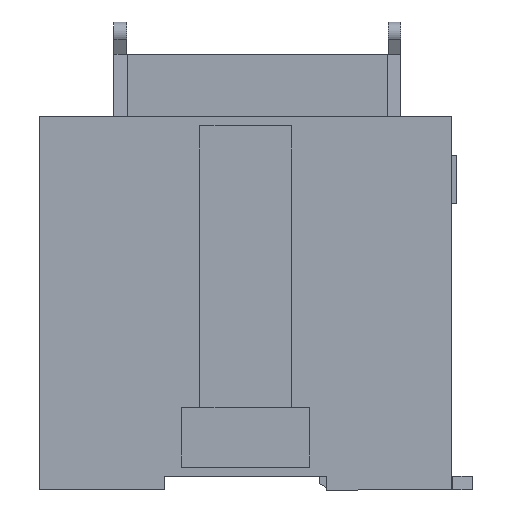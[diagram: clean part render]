
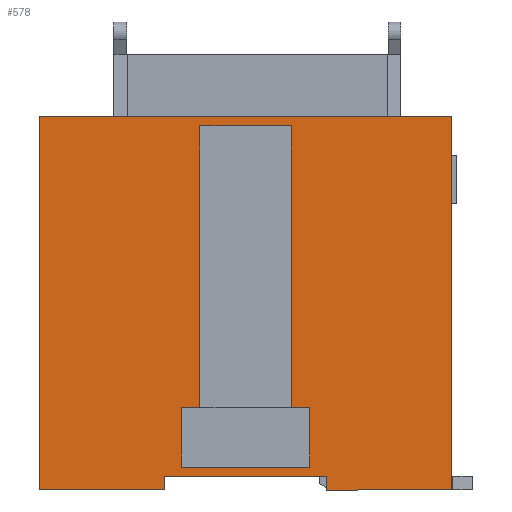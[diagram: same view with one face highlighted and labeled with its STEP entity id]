
A CAD part, left-side view. The second image highlights one B-rep face of the part: STEP entity #578.
In plain terms, the highlighted planar face has unit normal (-1, 0, 0).
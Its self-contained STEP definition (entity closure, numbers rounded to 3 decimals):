
#490=FACE_BOUND('',#1203,.T.);
#491=FACE_BOUND('',#1204,.T.);
#578=ADVANCED_FACE('',(#490,#491),#797,.F.);
#797=PLANE('',#4771);
#1203=EDGE_LOOP('',(#1861,#1862,#1863,#1864,#1865,#1866,#1867,#1868));
#1204=EDGE_LOOP('',(#1869,#1870,#1871,#1872,#1873,#1874,#1875,#1876));
#1861=ORIENTED_EDGE('',*,*,#3294,.T.);
#1862=ORIENTED_EDGE('',*,*,#3295,.F.);
#1863=ORIENTED_EDGE('',*,*,#3276,.F.);
#1864=ORIENTED_EDGE('',*,*,#3245,.F.);
#1865=ORIENTED_EDGE('',*,*,#3235,.F.);
#1866=ORIENTED_EDGE('',*,*,#3212,.F.);
#1867=ORIENTED_EDGE('',*,*,#3253,.F.);
#1868=ORIENTED_EDGE('',*,*,#3243,.F.);
#1869=ORIENTED_EDGE('',*,*,#3296,.T.);
#1870=ORIENTED_EDGE('',*,*,#3297,.F.);
#1871=ORIENTED_EDGE('',*,*,#3220,.F.);
#1872=ORIENTED_EDGE('',*,*,#3298,.F.);
#1873=ORIENTED_EDGE('',*,*,#3256,.F.);
#1874=ORIENTED_EDGE('',*,*,#3292,.F.);
#1875=ORIENTED_EDGE('',*,*,#3224,.F.);
#1876=ORIENTED_EDGE('',*,*,#3299,.F.);
#2762=VERTEX_POINT('',#6483);
#2763=VERTEX_POINT('',#6485);
#2769=VERTEX_POINT('',#6500);
#2770=VERTEX_POINT('',#6502);
#2773=VERTEX_POINT('',#6508);
#2774=VERTEX_POINT('',#6510);
#2784=VERTEX_POINT('',#6534);
#2791=VERTEX_POINT('',#6550);
#2792=VERTEX_POINT('',#6552);
#2793=VERTEX_POINT('',#6556);
#2801=VERTEX_POINT('',#6576);
#2802=VERTEX_POINT('',#6578);
#2819=VERTEX_POINT('',#6618);
#2830=VERTEX_POINT('',#6684);
#2831=VERTEX_POINT('',#6687);
#2832=VERTEX_POINT('',#6688);
#3212=EDGE_CURVE('',#2762,#2763,#3798,.T.);
#3220=EDGE_CURVE('',#2769,#2770,#3806,.T.);
#3224=EDGE_CURVE('',#2773,#2774,#3810,.T.);
#3235=EDGE_CURVE('',#2763,#2784,#3817,.T.);
#3243=EDGE_CURVE('',#2791,#2792,#3825,.T.);
#3245=EDGE_CURVE('',#2784,#2793,#3827,.T.);
#3253=EDGE_CURVE('',#2792,#2762,#3833,.T.);
#3256=EDGE_CURVE('',#2801,#2802,#3836,.T.);
#3276=EDGE_CURVE('',#2793,#2819,#3855,.T.);
#3292=EDGE_CURVE('',#2774,#2801,#3867,.T.);
#3294=EDGE_CURVE('',#2791,#2830,#3869,.T.);
#3295=EDGE_CURVE('',#2819,#2830,#3870,.T.);
#3296=EDGE_CURVE('',#2831,#2832,#3871,.T.);
#3297=EDGE_CURVE('',#2770,#2832,#3872,.T.);
#3298=EDGE_CURVE('',#2802,#2769,#3873,.T.);
#3299=EDGE_CURVE('',#2831,#2773,#3874,.T.);
#3798=LINE('',#6484,#4326);
#3806=LINE('',#6501,#4334);
#3810=LINE('',#6509,#4338);
#3817=LINE('',#6533,#4345);
#3825=LINE('',#6551,#4353);
#3827=LINE('',#6555,#4355);
#3833=LINE('',#6570,#4361);
#3836=LINE('',#6577,#4364);
#3855=LINE('',#6617,#4383);
#3867=LINE('',#6680,#4395);
#3869=LINE('',#6683,#4397);
#3870=LINE('',#6685,#4398);
#3871=LINE('',#6686,#4399);
#3872=LINE('',#6689,#4400);
#3873=LINE('',#6690,#4401);
#3874=LINE('',#6691,#4402);
#4326=VECTOR('',#5293,1.);
#4334=VECTOR('',#5305,1.);
#4338=VECTOR('',#5309,1.);
#4345=VECTOR('',#5330,1.);
#4353=VECTOR('',#5342,1.);
#4355=VECTOR('',#5346,1.);
#4361=VECTOR('',#5358,1.);
#4364=VECTOR('',#5363,1.);
#4383=VECTOR('',#5390,1.);
#4395=VECTOR('',#5410,1.);
#4397=VECTOR('',#5414,1.);
#4398=VECTOR('',#5415,1.);
#4399=VECTOR('',#5416,1.);
#4400=VECTOR('',#5417,1.);
#4401=VECTOR('',#5418,1.);
#4402=VECTOR('',#5419,1.);
#4771=AXIS2_PLACEMENT_3D('',#6692,#5420,#5421);
#5293=DIRECTION('',(0.,1.,0.));
#5305=DIRECTION('',(0.,1.,0.));
#5309=DIRECTION('',(0.,1.,0.));
#5330=DIRECTION('',(0.,0.,-1.));
#5342=DIRECTION('',(0.,1.,0.));
#5346=DIRECTION('',(0.,1.,0.));
#5358=DIRECTION('',(0.,0.,1.));
#5363=DIRECTION('',(0.,-1.,0.));
#5390=DIRECTION('',(0.,0.,1.));
#5410=DIRECTION('',(0.,0.,-1.));
#5414=DIRECTION('',(0.,0.,1.));
#5415=DIRECTION('',(0.,-1.,0.));
#5416=DIRECTION('',(0.,-1.,0.));
#5417=DIRECTION('',(0.,0.,1.));
#5418=DIRECTION('',(0.,0.,1.));
#5419=DIRECTION('',(0.,0.,-1.));
#5420=DIRECTION('',(1.,0.,0.));
#5421=DIRECTION('',(0.,1.,0.));
#6483=CARTESIAN_POINT('',(-60.,-17.7,3.));
#6484=CARTESIAN_POINT('',(-60.,-17.7,3.));
#6485=CARTESIAN_POINT('',(-60.,17.7,3.));
#6500=CARTESIAN_POINT('',(-60.,-14.,18.));
#6501=CARTESIAN_POINT('',(-60.,-13.,18.));
#6502=CARTESIAN_POINT('',(-60.,-10.,18.));
#6508=CARTESIAN_POINT('',(-60.,10.,18.));
#6509=CARTESIAN_POINT('',(-60.,10.,18.));
#6510=CARTESIAN_POINT('',(-60.,14.,18.));
#6533=CARTESIAN_POINT('',(-60.,17.7,1.5));
#6534=CARTESIAN_POINT('',(-60.,17.7,0.));
#6550=CARTESIAN_POINT('',(-60.,-45.,0.));
#6551=CARTESIAN_POINT('',(-60.,-44.5,0.));
#6552=CARTESIAN_POINT('',(-60.,-17.7,0.));
#6555=CARTESIAN_POINT('',(-60.,18.2,0.));
#6556=CARTESIAN_POINT('',(-60.,45.,0.));
#6570=CARTESIAN_POINT('',(-60.,-17.7,0.5));
#6576=CARTESIAN_POINT('',(-60.,14.,5.));
#6577=CARTESIAN_POINT('',(-60.,14.,5.));
#6578=CARTESIAN_POINT('',(-60.,-14.,5.));
#6617=CARTESIAN_POINT('',(-60.,45.,30.85));
#6618=CARTESIAN_POINT('',(-60.,45.,81.5));
#6680=CARTESIAN_POINT('',(-60.,14.,17.));
#6683=CARTESIAN_POINT('',(-60.,-45.,0.));
#6684=CARTESIAN_POINT('',(-60.,-45.,81.5));
#6685=CARTESIAN_POINT('',(-60.,0.,81.5));
#6686=CARTESIAN_POINT('',(-60.,0.,79.5));
#6687=CARTESIAN_POINT('',(-60.,10.,79.5));
#6688=CARTESIAN_POINT('',(-60.,-10.,79.5));
#6689=CARTESIAN_POINT('',(-60.,-10.,18.));
#6690=CARTESIAN_POINT('',(-60.,-14.,5.));
#6691=CARTESIAN_POINT('',(-60.,10.,61.7));
#6692=CARTESIAN_POINT('',(-60.,0.,30.85));
